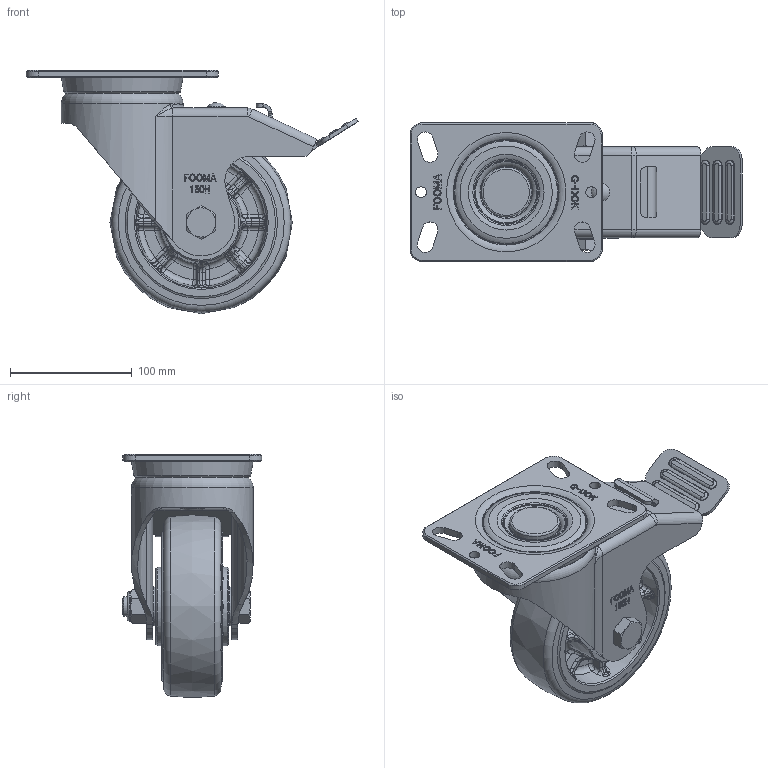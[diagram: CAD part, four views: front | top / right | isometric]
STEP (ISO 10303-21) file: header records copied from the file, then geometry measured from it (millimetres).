
FILE_DESCRIPTION(/* description */ (''),/* implementation_level */ '2;1');
FILE_NAME(/* name */ 'Y:\1.기술연구소\2.연구개발 진행중\94.PLM 고하중 개발\1.도면\3D\홈페이지용 3D\GHP-150-BSF-MUD.stp',/* time_stamp */ '2024-04-24T13:03:36+09:00',/* author */ ('장용하'),/* organization */ (''),/* preprocessor_version */ 'ST-DEVELOPER v18.1',/* originating_system */ 'Autodesk Inventor 2021',/* authorisation */ '');
FILE_SCHEMA (('AUTOMOTIVE_DESIGN { 1 0 10303 214 3 1 1 }'));
Products named in the file (1): GHP-150-BSF-MUD_Shrinkwrap_1
Bounding box: 272.77 x 114.5 x 200.03 mm (x, y, z)
Volume: 1192960.2 mm3; surface area: 215461.8 mm2
Topology: 1 solids, 1 shells, 1539 faces, 3817 edges, 2338 vertices
Faces by surface type: bspline 629, plane 469, cylinder 318, torus 72, cone 50, sphere 1
Full cylindrical faces by diameter (mm): 6 x1, 9 x2, 15 x2, 16 x1, 20 x1, 22.49 x1, 24 x1, 32 x2, 41 x1, 72 x2, 74 x1, 86 x1, 90 x1, 100 x1
Entity records: 57061 total; most frequent: CARTESIAN_POINT 24121, ORIENTED_EDGE 7624, DIRECTION 5557, EDGE_CURVE 3812, VERTEX_POINT 2338, AXIS2_PLACEMENT_3D 2058, EDGE_LOOP 1616, FACE_OUTER_BOUND 1539
